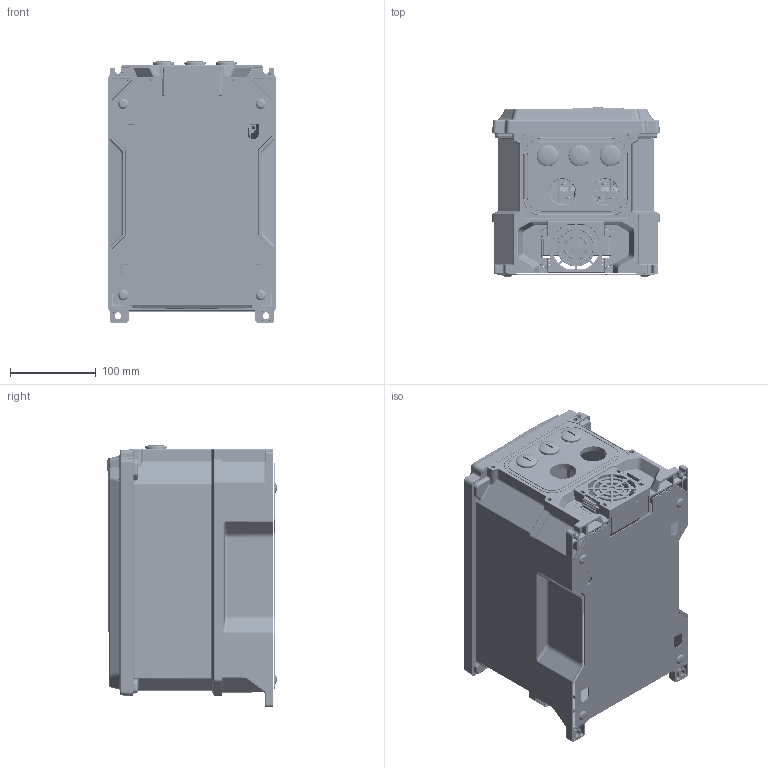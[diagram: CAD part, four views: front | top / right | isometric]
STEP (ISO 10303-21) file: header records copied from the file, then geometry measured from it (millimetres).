
FILE_DESCRIPTION((''),'2;1');
FILE_NAME('ASM0237_ASM','2019-07-31T',('EASON.CHENG'),(''),'PRO/ENGINEER BY PARAMETRIC TECHNOLOGY CORPORATION, 2015240','PRO/ENGINEER BY PARAMETRIC TECHNOLOGY CORPORATION, 2015240','');
FILE_SCHEMA(('AUTOMOTIVE_DESIGN { 1 0 10303 214 1 1 1 1 }'));
Products named in the file (81): PRT0177; ASM0242_ASM; PRT0178; ASM0243_ASM; PRT0179; ASM0244_ASM; PRT0180; PRT0181; ASM0246_ASM; PRT0182; PRT0183; ASM0245_ASM; PRT0184; ASM0247_ASM; PRT0185; PRT0186; ASM0248_ASM; PRT0187; ASM0249_ASM; ASM0241_ASM; PRT0188; PRT0189; ASM0254_ASM; SCREW-M4_3; PRT0190; ASM0253_ASM; ASM0252_ASM; ASM0251_ASM; PRT0191; PRT0192; PRT0193; PRT0194; PRT0195; PRT0196; PRT0197; PRT0198; PRT0199; PRT0200; PRT0201; PRT0202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
Assembly tree (140 placements, depth 11):
  ASM0237_ASM
    ASM0238_ASM
      ASM0239_ASM
        ASM0240_ASM
          ASM0241_ASM
            ASM0242_ASM
              PRT0177
            ASM0243_ASM
              PRT0178
            ASM0244_ASM
              PRT0179
            ASM0245_ASM
              ASM0246_ASM
                PRT0180
                PRT0181
              PRT0182
              PRT0183
            ASM0247_ASM
              PRT0184
            ASM0248_ASM
              PRT0185
              PRT0186
            ASM0249_ASM
              PRT0187  x3
          ASM0250_ASM
            ASM0251_ASM
              ASM0252_ASM
                ASM0253_ASM
                  PRT0188
                  ASM0254_ASM  x6
                  SCREW-M4_3  x6
                  PRT0190
            ASM0255_ASM
              ASM0256_ASM
                ASM0257_ASM
                  PRT0191
                  PRT0192
                  PRT0193
                  PRT0194
                  PRT0195
                  PRT0196
                  PRT0197
                  PRT0198
                  PRT0199
                  PRT0200  x3
                  PRT0201
                  PRT0202
                  PRT0203
                  ASM0258_ASM
                    PRT0210  x24
                    ASM0260_ASM  x12
                    ASM0261_ASM  x12
                    PRT0215  x2
                  PRT0222
                  PRT0223
                  PRT0224
                  PRT0225
                  PRT0226
                  PRT0227
                  ASM0262_ASM
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Bounding box: 195 x 196.6 x 305.2 mm (x, y, z)
Volume: 577159.9 mm3; surface area: 716640.7 mm2
Topology: 133 solids, 144 shells, 16022 faces, 43628 edges, 28041 vertices
Faces by surface type: plane 10337, cylinder 3653, cone 746, bspline 451, torus 426, extrusion 346, sphere 57, revolution 6
Entity records: 600540 total; most frequent: CARTESIAN_POINT 118643, ORIENTED_EDGE 75815, DIRECTION 67610, PRESENTATION_STYLE_ASSIGNMENT 39826, STYLED_ITEM 38140, CURVE_STYLE 38078, EDGE_CURVE 38078, VECTOR 28188
